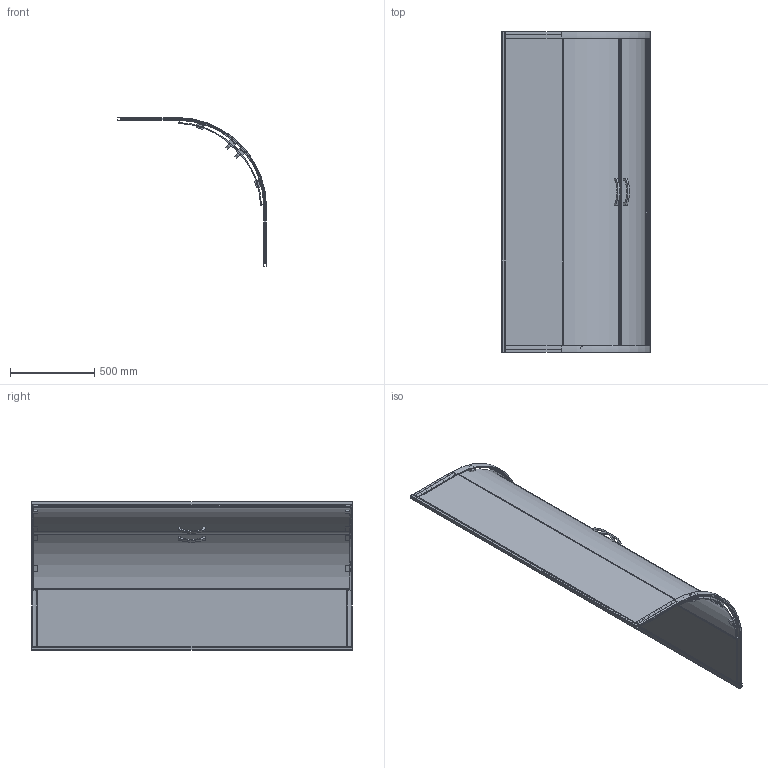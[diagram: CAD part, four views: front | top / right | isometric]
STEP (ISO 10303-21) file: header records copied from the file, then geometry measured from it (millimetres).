
FILE_DESCRIPTION (( 'STEP AP203' ), '1' );
FILE_NAME ('KP4_TRINNITY_90.STEP', '2019-08-21T10:28:29', ( '' ), ( '' ), 'SwSTEP 2.0', 'SolidWorks 2018', '' );
FILE_SCHEMA (( 'CONFIG_CONTROL_DESIGN' ));
Length unit declared in the file: millimetre
Products named in the file (1): KP4_TRINNITY_90
Bounding box: 882.5 x 1900 x 882.5 mm (x, y, z)
Volume: 15725149.7 mm3; surface area: 7689367.5 mm2
Topology: 26 solids, 26 shells, 478 faces, 1158 edges, 744 vertices
Faces by surface type: plane 314, cylinder 120, torus 36, cone 8
Entity records: 13897 total; most frequent: DIRECTION 2428, CARTESIAN_POINT 2381, ORIENTED_EDGE 2316, EDGE_CURVE 1158, VECTOR 846, LINE 846, AXIS2_PLACEMENT_3D 791, VERTEX_POINT 744
